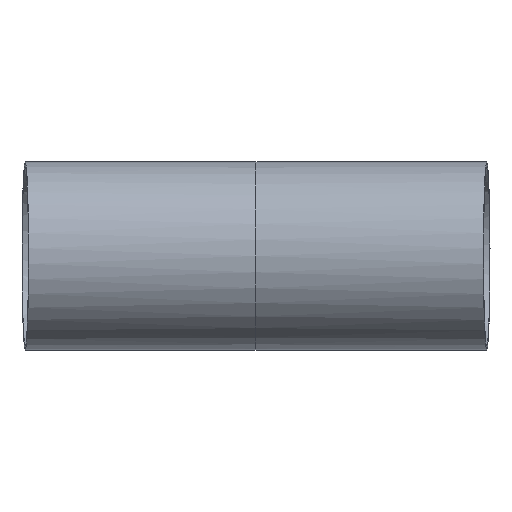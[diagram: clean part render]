
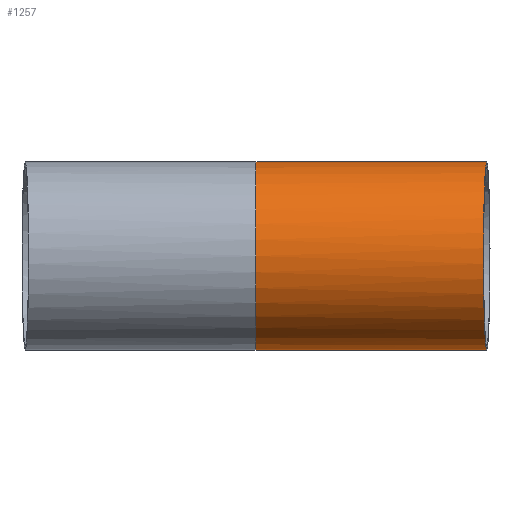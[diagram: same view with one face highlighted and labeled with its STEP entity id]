
A CAD part, front view. The second image highlights one B-rep face of the part: STEP entity #1257.
In plain terms, the highlighted free-form (B-spline) face has degree [3, 1] with [4, 2] control points.
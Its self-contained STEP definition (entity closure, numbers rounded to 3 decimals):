
#12 = CARTESIAN_POINT ( 'NONE',  ( 92.985, -15.494, 36.1 ) ) ;
#17 = CARTESIAN_POINT ( 'NONE',  ( 92.944, -16.683, 35.674 ) ) ;
#24 = CARTESIAN_POINT ( 'NONE',  ( 92.823, -20.139, 34.239 ) ) ;
#39 = CARTESIAN_POINT ( 'NONE',  ( 92.747, -22.325, 33.069 ) ) ;
#46 = CARTESIAN_POINT ( 'NONE',  ( 92.656, -24.91, 31.34 ) ) ;
#53 = CARTESIAN_POINT ( 'NONE',  ( 92.639, -25.42, 30.981 ) ) ;
#57 = CARTESIAN_POINT ( 'NONE',  ( 92.603, -26.424, 30.236 ) ) ;
#59 = CARTESIAN_POINT ( 'NONE',  ( 92.586, -26.92, 29.848 ) ) ;
#62 = CARTESIAN_POINT ( 'NONE',  ( 92.535, -28.374, 28.653 ) ) ;
#70 = CARTESIAN_POINT ( 'NONE',  ( 92.503, -29.297, 27.815 ) ) ;
#76 = CARTESIAN_POINT ( 'NONE',  ( 92.411, -31.93, 25.178 ) ) ;
#84 = CARTESIAN_POINT ( 'NONE',  ( 92.356, -33.504, 23.26 ) ) ;
#103 = CARTESIAN_POINT ( 'NONE',  ( 93.412, -3.262, -38.1 ) ) ;
#109 = CARTESIAN_POINT ( 'NONE',  ( 92.296, -35.243, 20.658 ) ) ;
#111 = CARTESIAN_POINT ( 'NONE',  ( 0., 0., 38.1 ) ) ;
#125 = CARTESIAN_POINT ( 'NONE',  ( 92.284, -35.58, 20.125 ) ) ;
#137 = CARTESIAN_POINT ( 'NONE',  ( 92.261, -36.224, 19.049 ) ) ;
#145 = CARTESIAN_POINT ( 'NONE',  ( 92.251, -36.531, 18.505 ) ) ;
#160 = CARTESIAN_POINT ( 'NONE',  ( 92.22, -37.411, 16.856 ) ) ;
#166 = CARTESIAN_POINT ( 'NONE',  ( 92.183, -38.472, 14.611 ) ) ;
#182 = CARTESIAN_POINT ( 'NONE',  ( 92.154, -39.309, 12.273 ) ) ;
#188 = CARTESIAN_POINT ( 'NONE',  ( 92.135, -39.852, 10.485 ) ) ;
#193 = ORIENTED_EDGE ( 'NONE', *, *, #576, .F. ) ;
#194 = CARTESIAN_POINT ( 'NONE',  ( 92.129, -40.018, 9.883 ) ) ;
#199 = CARTESIAN_POINT ( 'NONE',  ( 92.118, -40.323, 8.667 ) ) ;
#204 = CARTESIAN_POINT ( 'NONE',  ( 92.113, -40.461, 8.052 ) ) ;
#210 = CARTESIAN_POINT ( 'NONE',  ( 92.092, -41.072, 4.98 ) ) ;
#214 = EDGE_LOOP ( 'NONE', ( #934, #623, #193, #243 ) ) ;
#218 = CARTESIAN_POINT ( 'NONE',  ( 92.084, -41.314, 2.509 ) ) ;
#222 = CARTESIAN_POINT ( 'NONE',  ( 92.083, -41.316, -1.216 ) ) ;
#228 = CARTESIAN_POINT ( 'NONE',  ( 92.086, -41.257, -2.462 ) ) ;
#236 = CARTESIAN_POINT ( 'NONE',  ( 92.092, -41.074, -4.334 ) ) ;
#243 = ORIENTED_EDGE ( 'NONE', *, *, #700, .F. ) ;
#244 = CARTESIAN_POINT ( 'NONE',  ( 92.095, -40.997, -4.96 ) ) ;
#248 = CARTESIAN_POINT ( 'NONE',  ( 92.101, -40.814, -6.198 ) ) ;
#260 = EDGE_CURVE ( 'NONE', #879, #386, #1119, .T. ) ;
#274 = CARTESIAN_POINT ( 'NONE',  ( 92.105, -40.707, -6.813 ) ) ;
#279 = CARTESIAN_POINT ( 'NONE',  ( 92.126, -40.102, -9.866 ) ) ;
#287 = CARTESIAN_POINT ( 'NONE',  ( 92.151, -39.384, -12.24 ) ) ;
#297 = CARTESIAN_POINT ( 'NONE',  ( 92.192, -38.195, -15.123 ) ) ;
#303 = CARTESIAN_POINT ( 'NONE',  ( 92.201, -37.943, -15.695 ) ) ;
#312 = CARTESIAN_POINT ( 'NONE',  ( 93.069, -13.103, 36.825 ) ) ;
#319 = CARTESIAN_POINT ( 'NONE',  ( 92.22, -37.407, -16.83 ) ) ;
#325 = CARTESIAN_POINT ( 'NONE',  ( 92.23, -37.125, -17.393 ) ) ;
#330 = CARTESIAN_POINT ( 'NONE',  ( 92.261, -36.242, -19.048 ) ) ;
#352 = CARTESIAN_POINT ( 'NONE',  ( 92.283, -35.603, -20.116 ) ) ;
#357 = CARTESIAN_POINT ( 'NONE',  ( 92.355, -33.539, -23.213 ) ) ;
#374 = CARTESIAN_POINT ( 'NONE',  ( 92.41, -31.968, -25.138 ) ) ;
#380 = CARTESIAN_POINT ( 'NONE',  ( 92.503, -29.307, -27.807 ) ) ;
#385 = CARTESIAN_POINT ( 'NONE',  ( 92.535, -28.38, -28.648 ) ) ;
#386 = VERTEX_POINT ( 'NONE', #1287 ) ;
#402 = CARTESIAN_POINT ( 'NONE',  ( 92.602, -26.459, -30.228 ) ) ;
#413 = CARTESIAN_POINT ( 'NONE',  ( 92.637, -25.464, -30.968 ) ) ;
#416 = CARTESIAN_POINT ( 'NONE',  ( 93.973, -3.282, 38.1 ) ) ;
#420 = CARTESIAN_POINT ( 'NONE',  ( 92.709, -23.404, -32.349 ) ) ;
#427 = CARTESIAN_POINT ( 'NONE',  ( 92.746, -22.34, -32.99 ) ) ;
#436 = CARTESIAN_POINT ( 'NONE',  ( 92.823, -20.14, -34.17 ) ) ;
#444 = CARTESIAN_POINT ( 'NONE',  ( 92.863, -18.999, -34.712 ) ) ;
#449 = CARTESIAN_POINT ( 'NONE',  ( 92.984, -15.54, -36.149 ) ) ;
#454 = CARTESIAN_POINT ( 'NONE',  ( 93.066, -13.168, -36.871 ) ) ;
#460 = CARTESIAN_POINT ( 'NONE',  ( 93.194, -9.512, -37.603 ) ) ;
#468 = CARTESIAN_POINT ( 'NONE',  ( 93.237, -8.275, -37.789 ) ) ;
#473 = CARTESIAN_POINT ( 'NONE',  ( 93.325, -5.773, -38.038 ) ) ;
#487 = CARTESIAN_POINT ( 'NONE',  ( 93.368, -4.519, -38.1 ) ) ;
#498 = CARTESIAN_POINT ( 'NONE',  ( 93.412, -3.262, 38.1 ) ) ;
#508 = EDGE_CURVE ( 'NONE', #386, #953, #1146, .T. ) ;
#522 = CARTESIAN_POINT ( 'NONE',  ( 0., -76.2, 38.1 ) ) ;
#529 = CARTESIAN_POINT ( 'NONE',  ( 93.973, -79.482, -38.1 ) ) ;
#540 = CARTESIAN_POINT ( 'NONE',  ( 0., -76.2, -38.1 ) ) ;
#549 = CARTESIAN_POINT ( 'NONE',  ( 93.973, -3.282, -38.1 ) ) ;
#555 = CARTESIAN_POINT ( 'NONE',  ( 0., 0., -38.1 ) ) ;
#576 = EDGE_CURVE ( 'NONE', #583, #879, #717, .T. ) ;
#583 = VERTEX_POINT ( 'NONE', #1900 ) ;
#623 = ORIENTED_EDGE ( 'NONE', *, *, #260, .F. ) ;
#630 = CARTESIAN_POINT ( 'NONE',  ( 0., 0., -38.1 ) ) ;
#648 = CARTESIAN_POINT ( 'NONE',  ( 93.238, -8.249, 37.853 ) ) ;
#700 = EDGE_CURVE ( 'NONE', #953, #583, #801, .T. ) ;
#712 = CARTESIAN_POINT ( 'NONE',  ( 93.973, -79.482, 38.1 ) ) ;
#717 = LINE ( 'NONE', #1892, #1223 ) ;
#719 = VECTOR ( 'NONE', #1842, 1000. ) ;
#758 = CARTESIAN_POINT ( 'NONE',  ( 0., 0., 0. ) ) ;
#768 = DIRECTION ( 'NONE',  ( -1., 0., 0. ) ) ;
#774 = DIRECTION ( 'NONE',  ( 0., 0., 1. ) ) ;
#780 =( BOUNDED_SURFACE ( )  B_SPLINE_SURFACE ( 3, 1, ( 
 ( #416, #111 ),
 ( #712, #522 ),
 ( #529, #540 ),
 ( #549, #555 ) ),
 .UNSPECIFIED., .F., .F., .F. ) 
 B_SPLINE_SURFACE_WITH_KNOTS ( ( 4, 4 ),
 ( 2, 2 ),
 ( 0., 1. ),
 ( 0., 1. ),
 .UNSPECIFIED. ) 
 GEOMETRIC_REPRESENTATION_ITEM ( )  RATIONAL_B_SPLINE_SURFACE ( (
 ( 1., 1.),
 ( 0.333, 0.333),
 ( 0.333, 0.333),
 ( 1., 1.) ) ) 
 REPRESENTATION_ITEM ( '' )  SURFACE ( )  );
#787 = CARTESIAN_POINT ( 'NONE',  ( 93.111, -11.897, 37.127 ) ) ;
#801 = B_SPLINE_CURVE_WITH_KNOTS ( 'NONE', 3,
 ( #1964, #1809, #648, #787, #312, #12, #17, #24, #39, #46, #53, #57, #59, #62, #70, #76, #84, #109, #125, #137, #145, #160, #166, #182, #188, #194, #199, #204, #210, #218, #222, #228, #236, #244, #248, #274, #279, #287, #297, #303, #319, #325, #330, #352, #357, #374, #380, #385, #402, #413, #420, #427, #436, #444, #449, #454, #460, #468, #473, #487, #103 ),
 .UNSPECIFIED., .F., .F.,
 ( 4, 2, 2, 2, 2, 2, 2, 2, 2, 2, 2, 1, 2, 2, 2, 2, 2, 2, 2, 2, 2, 2, 2, 2, 2, 2, 2, 2, 2, 2, 4 ),
 ( 0., 0.007, 0.011, 0.015, 0.022, 0.024, 0.026, 0.03, 0.037, 0.039, 0.041, 0.045, 0.048, 0.05, 0.052, 0.06, 0.063, 0.065, 0.067, 0.074, 0.076, 0.078, 0.082, 0.089, 0.093, 0.097, 0.1, 0.104, 0.112, 0.115, 0.119 ),
 .UNSPECIFIED. ) ;
#879 = VERTEX_POINT ( 'NONE', #630 ) ;
#934 = ORIENTED_EDGE ( 'NONE', *, *, #508, .F. ) ;
#953 = VERTEX_POINT ( 'NONE', #498 ) ;
#1119 = CIRCLE ( 'NONE', #1636, 38.1 ) ;
#1146 = LINE ( 'NONE', #1828, #719 ) ;
#1223 = VECTOR ( 'NONE', #1897, 1000. ) ;
#1257 = ADVANCED_FACE ( 'NONE', ( #1274 ), #780, .F. ) ;
#1274 = FACE_OUTER_BOUND ( 'NONE', #214, .T. ) ;
#1287 = CARTESIAN_POINT ( 'NONE',  ( 0., 0., 38.1 ) ) ;
#1636 = AXIS2_PLACEMENT_3D ( 'NONE', #758, #768, #774 ) ;
#1809 = CARTESIAN_POINT ( 'NONE',  ( 93.325, -5.777, 38.1 ) ) ;
#1828 = CARTESIAN_POINT ( 'NONE',  ( 46.986, -1.641, 38.1 ) ) ;
#1842 = DIRECTION ( 'NONE',  ( 0.999, -0.035, 0. ) ) ;
#1892 = CARTESIAN_POINT ( 'NONE',  ( 46.986, -1.641, -38.1 ) ) ;
#1897 = DIRECTION ( 'NONE',  ( -0.999, 0.035, 0. ) ) ;
#1900 = CARTESIAN_POINT ( 'NONE',  ( 93.412, -3.262, -38.1 ) ) ;
#1964 = CARTESIAN_POINT ( 'NONE',  ( 93.412, -3.262, 38.1 ) ) ;
